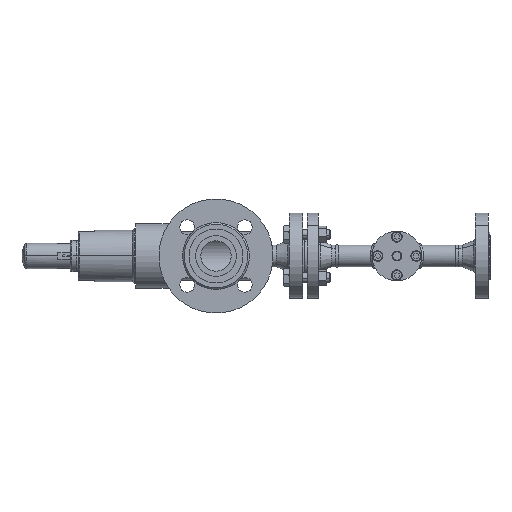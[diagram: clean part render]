
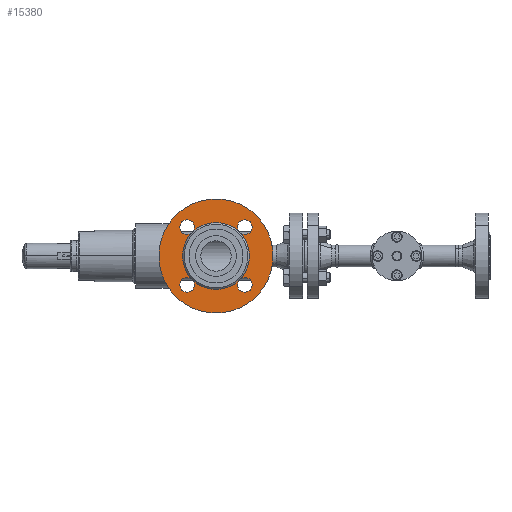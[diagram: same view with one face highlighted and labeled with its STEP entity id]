
A CAD part, front view. The second image highlights one B-rep face of the part: STEP entity #15380.
In plain terms, the highlighted planar face has unit normal (0, -1, 0).
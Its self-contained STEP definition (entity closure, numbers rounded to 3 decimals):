
#32779 = ORIENTED_EDGE ( 'NONE', *, *, #31695, .T. ) ;
#199 = ORIENTED_EDGE ( 'NONE', *, *, #12088, .T. ) ;
#16756 = VERTEX_POINT ( 'NONE', #20753 ) ;
#16824 = CIRCLE ( 'NONE', #16846, 41. ) ;
#16846 = AXIS2_PLACEMENT_3D ( 'NONE', #16847, #16848, #16849 ) ;
#16847 = CARTESIAN_POINT ( 'NONE',  ( 0., 2., 0. ) ) ;
#16848 = DIRECTION ( 'NONE',  ( 0., 1., 0. ) ) ;
#16849 = DIRECTION ( 'NONE',  ( -1., 0., 0. ) ) ;
#17215 = VERTEX_POINT ( 'NONE', #21129 ) ;
#1243 = VERTEX_POINT ( 'NONE', #26250 ) ;
#1284 = ORIENTED_EDGE ( 'NONE', *, *, #10697, .T. ) ;
#17688 = EDGE_CURVE ( 'NONE', #17215, #16756, #22021, .T. ) ;
#34132 = EDGE_CURVE ( 'NONE', #8009, #36748, #16824, .T. ) ;
#34258 = CIRCLE ( 'NONE', #34259, 9. ) ;
#34259 = AXIS2_PLACEMENT_3D ( 'NONE', #34299, #34300, #34301 ) ;
#34297 = ORIENTED_EDGE ( 'NONE', *, *, #34132, .T. ) ;
#34299 = CARTESIAN_POINT ( 'NONE',  ( 0., 2., -50. ) ) ;
#34300 = DIRECTION ( 'NONE',  ( 0., 1., 0. ) ) ;
#34301 = DIRECTION ( 'NONE',  ( -1., 0., 0. ) ) ;
#1695 = VERTEX_POINT ( 'NONE', #30226 ) ;
#18327 = EDGE_CURVE ( 'NONE', #16756, #17215, #23524, .T. ) ;
#2154 = EDGE_CURVE ( 'NONE', #1695, #1243, #30609, .T. ) ;
#2348 = EDGE_CURVE ( 'NONE', #35771, #36419, #30672, .T. ) ;
#18775 = CARTESIAN_POINT ( 'NONE',  ( -59., 2., 0. ) ) ;
#2402 = CIRCLE ( 'NONE', #2423, 41. ) ;
#2423 = AXIS2_PLACEMENT_3D ( 'NONE', #2424, #2425, #2426 ) ;
#2424 = CARTESIAN_POINT ( 'NONE',  ( 0., 2., 0. ) ) ;
#2425 = DIRECTION ( 'NONE',  ( 0., 1., 0. ) ) ;
#2426 = DIRECTION ( 'NONE',  ( -1., 0., 0. ) ) ;
#35296 = CARTESIAN_POINT ( 'NONE',  ( -9., 2., -50. ) ) ;
#19308 = CARTESIAN_POINT ( 'NONE',  ( -41., 2., 0. ) ) ;
#35771 = VERTEX_POINT ( 'NONE', #18775 ) ;
#35829 = EDGE_LOOP ( 'NONE', ( #34297, #32779, #30165, #28637, #26016, #23992, #3108, #1284, #199, #42811, #40969, #39888, #38814, #12864 ) ) ;
#3108 = ORIENTED_EDGE ( 'NONE', *, *, #2348, .T. ) ;
#19497 = CARTESIAN_POINT ( 'NONE',  ( 0., 2., -41. ) ) ;
#36111 = CARTESIAN_POINT ( 'NONE',  ( 9., 2., -50. ) ) ;
#36419 = VERTEX_POINT ( 'NONE', #19308 ) ;
#36535 = ORIENTED_EDGE ( 'NONE', *, *, #18327, .F. ) ;
#36748 = VERTEX_POINT ( 'NONE', #19497 ) ;
#4044 = EDGE_CURVE ( 'NONE', #23556, #22896, #34258, .T. ) ;
#20753 = CARTESIAN_POINT ( 'NONE',  ( 70., 2., 0. ) ) ;
#37335 = EDGE_CURVE ( 'NONE', #36748, #36419, #21727, .T. ) ;
#4598 = CIRCLE ( 'NONE', #4599, 9. ) ;
#4599 = AXIS2_PLACEMENT_3D ( 'NONE', #4600, #4601, #4602 ) ;
#4600 = CARTESIAN_POINT ( 'NONE',  ( 0., 2., 50. ) ) ;
#4601 = DIRECTION ( 'NONE',  ( 0., 1., 0. ) ) ;
#4602 = DIRECTION ( 'NONE',  ( -1., 0., 0. ) ) ;
#21129 = CARTESIAN_POINT ( 'NONE',  ( -70., 2., 0. ) ) ;
#5194 = CIRCLE ( 'NONE', #5195, 41. ) ;
#5195 = AXIS2_PLACEMENT_3D ( 'NONE', #5218, #5219, #5220 ) ;
#5218 = CARTESIAN_POINT ( 'NONE',  ( 0., 2., 0. ) ) ;
#5219 = DIRECTION ( 'NONE',  ( 0., 1., 0. ) ) ;
#5220 = DIRECTION ( 'NONE',  ( -1., 0., 0. ) ) ;
#38010 = VERTEX_POINT ( 'NONE', #22299 ) ;
#38052 = EDGE_CURVE ( 'NONE', #8009, #8469, #22404, .T. ) ;
#21727 = CIRCLE ( 'NONE', #21728, 41. ) ;
#21728 = AXIS2_PLACEMENT_3D ( 'NONE', #21729, #21730, #21731 ) ;
#21729 = CARTESIAN_POINT ( 'NONE',  ( 0., 2., 0. ) ) ;
#21730 = DIRECTION ( 'NONE',  ( 0., 1., 0. ) ) ;
#21731 = DIRECTION ( 'NONE',  ( -1., 0., 0. ) ) ;
#22021 = CIRCLE ( 'NONE', #22022, 70. ) ;
#22022 = AXIS2_PLACEMENT_3D ( 'NONE', #22049, #22050, #22051 ) ;
#22049 = CARTESIAN_POINT ( 'NONE',  ( 0., 2., 0. ) ) ;
#22050 = DIRECTION ( 'NONE',  ( 0., 1., 0. ) ) ;
#22051 = DIRECTION ( 'NONE',  ( -1., 0., 0. ) ) ;
#22299 = CARTESIAN_POINT ( 'NONE',  ( -9., 2., 50. ) ) ;
#22404 = CIRCLE ( 'NONE', #22405, 9. ) ;
#22405 = AXIS2_PLACEMENT_3D ( 'NONE', #22406, #22407, #22408 ) ;
#22406 = CARTESIAN_POINT ( 'NONE',  ( 50., 2., 0. ) ) ;
#22407 = DIRECTION ( 'NONE',  ( 0., 1., 0. ) ) ;
#22408 = DIRECTION ( 'NONE',  ( -1., 0., 0. ) ) ;
#38814 = ORIENTED_EDGE ( 'NONE', *, *, #38052, .T. ) ;
#6452 = CIRCLE ( 'NONE', #6453, 9. ) ;
#6453 = AXIS2_PLACEMENT_3D ( 'NONE', #6454, #6455, #6456 ) ;
#6454 = CARTESIAN_POINT ( 'NONE',  ( -50., 2., 0. ) ) ;
#6455 = DIRECTION ( 'NONE',  ( 0., 1., 0. ) ) ;
#6456 = DIRECTION ( 'NONE',  ( -1., 0., 0. ) ) ;
#22896 = VERTEX_POINT ( 'NONE', #35296 ) ;
#39888 = ORIENTED_EDGE ( 'NONE', *, *, #12554, .T. ) ;
#23524 = CIRCLE ( 'NONE', #23525, 70. ) ;
#23525 = AXIS2_PLACEMENT_3D ( 'NONE', #23526, #23527, #23528 ) ;
#23526 = CARTESIAN_POINT ( 'NONE',  ( 0., 2., 0. ) ) ;
#23527 = DIRECTION ( 'NONE',  ( 0., 1., 0. ) ) ;
#23528 = DIRECTION ( 'NONE',  ( -1., 0., 0. ) ) ;
#23556 = VERTEX_POINT ( 'NONE', #36111 ) ;
#23992 = ORIENTED_EDGE ( 'NONE', *, *, #13579, .T. ) ;
#8009 = VERTEX_POINT ( 'NONE', #41392 ) ;
#40969 = ORIENTED_EDGE ( 'NONE', *, *, #2154, .T. ) ;
#8469 = VERTEX_POINT ( 'NONE', #42290 ) ;
#41392 = CARTESIAN_POINT ( 'NONE',  ( 41., 2., 0. ) ) ;
#8934 = EDGE_CURVE ( 'NONE', #8469, #8009, #43159, .T. ) ;
#42042 = EDGE_CURVE ( 'NONE', #38010, #1695, #29451, .T. ) ;
#42230 = CIRCLE ( 'NONE', #42231, 9. ) ;
#42231 = AXIS2_PLACEMENT_3D ( 'NONE', #42232, #42233, #42234 ) ;
#42232 = CARTESIAN_POINT ( 'NONE',  ( 0., 2., -50. ) ) ;
#42233 = DIRECTION ( 'NONE',  ( 0., 1., 0. ) ) ;
#42234 = DIRECTION ( 'NONE',  ( -1., 0., 0. ) ) ;
#42290 = CARTESIAN_POINT ( 'NONE',  ( 59., 2., 0. ) ) ;
#26016 = ORIENTED_EDGE ( 'NONE', *, *, #37335, .T. ) ;
#9789 = FACE_OUTER_BOUND ( 'NONE', #14879, .T. ) ;
#9790 = FACE_BOUND ( 'NONE', #35829, .T. ) ;
#9791 = PLANE ( 'NONE',  #9792 ) ;
#9792 = AXIS2_PLACEMENT_3D ( 'NONE', #9793, #9820, #9821 ) ;
#9793 = CARTESIAN_POINT ( 'NONE',  ( 41., 2., 0. ) ) ;
#9820 = DIRECTION ( 'NONE',  ( 0., 1., 0. ) ) ;
#9821 = DIRECTION ( 'NONE',  ( -1., 0., 0. ) ) ;
#26250 = CARTESIAN_POINT ( 'NONE',  ( 0., 2., 41. ) ) ;
#42811 = ORIENTED_EDGE ( 'NONE', *, *, #42042, .T. ) ;
#43159 = CIRCLE ( 'NONE', #43160, 9. ) ;
#43160 = AXIS2_PLACEMENT_3D ( 'NONE', #43161, #43162, #43163 ) ;
#43161 = CARTESIAN_POINT ( 'NONE',  ( 50., 2., 0. ) ) ;
#43162 = DIRECTION ( 'NONE',  ( 0., 1., 0. ) ) ;
#43163 = DIRECTION ( 'NONE',  ( -1., 0., 0. ) ) ;
#10697 = EDGE_CURVE ( 'NONE', #36419, #1243, #2402, .T. ) ;
#27548 = EDGE_CURVE ( 'NONE', #22896, #36748, #42230, .T. ) ;
#11308 = CIRCLE ( 'NONE', #11327, 9. ) ;
#11327 = AXIS2_PLACEMENT_3D ( 'NONE', #11328, #11329, #11330 ) ;
#11328 = CARTESIAN_POINT ( 'NONE',  ( 0., 2., -50. ) ) ;
#11329 = DIRECTION ( 'NONE',  ( 0., 1., 0. ) ) ;
#11330 = DIRECTION ( 'NONE',  ( -1., 0., 0. ) ) ;
#12088 = EDGE_CURVE ( 'NONE', #1243, #38010, #4598, .T. ) ;
#28637 = ORIENTED_EDGE ( 'NONE', *, *, #27548, .T. ) ;
#12554 = EDGE_CURVE ( 'NONE', #1243, #8009, #5194, .T. ) ;
#12864 = ORIENTED_EDGE ( 'NONE', *, *, #8934, .T. ) ;
#29451 = CIRCLE ( 'NONE', #29452, 9. ) ;
#29452 = AXIS2_PLACEMENT_3D ( 'NONE', #29453, #29454, #29455 ) ;
#29453 = CARTESIAN_POINT ( 'NONE',  ( 0., 2., 50. ) ) ;
#29454 = DIRECTION ( 'NONE',  ( 0., 1., 0. ) ) ;
#29455 = DIRECTION ( 'NONE',  ( -1., 0., 0. ) ) ;
#13579 = EDGE_CURVE ( 'NONE', #36419, #35771, #6452, .T. ) ;
#30165 = ORIENTED_EDGE ( 'NONE', *, *, #4044, .T. ) ;
#13793 = ORIENTED_EDGE ( 'NONE', *, *, #17688, .F. ) ;
#30226 = CARTESIAN_POINT ( 'NONE',  ( 9., 2., 50. ) ) ;
#30609 = CIRCLE ( 'NONE', #30610, 9. ) ;
#30610 = AXIS2_PLACEMENT_3D ( 'NONE', #30611, #30612, #30613 ) ;
#30611 = CARTESIAN_POINT ( 'NONE',  ( 0., 2., 50. ) ) ;
#30612 = DIRECTION ( 'NONE',  ( 0., 1., 0. ) ) ;
#30613 = DIRECTION ( 'NONE',  ( -1., 0., 0. ) ) ;
#30672 = CIRCLE ( 'NONE', #30714, 9. ) ;
#30714 = AXIS2_PLACEMENT_3D ( 'NONE', #30715, #30716, #30717 ) ;
#30715 = CARTESIAN_POINT ( 'NONE',  ( -50., 2., 0. ) ) ;
#30716 = DIRECTION ( 'NONE',  ( 0., 1., 0. ) ) ;
#30717 = DIRECTION ( 'NONE',  ( -1., 0., 0. ) ) ;
#14879 = EDGE_LOOP ( 'NONE', ( #13793, #36535 ) ) ;
#31695 = EDGE_CURVE ( 'NONE', #36748, #23556, #11308, .T. ) ;
#15380 = ADVANCED_FACE ( 'NONE', ( #9789, #9790 ), #9791, .F. ) ;
